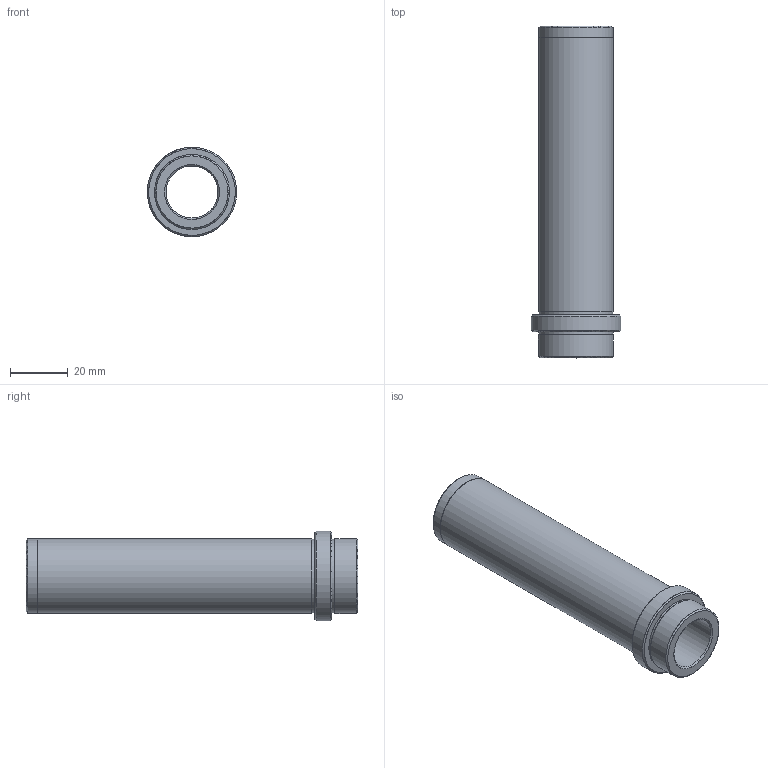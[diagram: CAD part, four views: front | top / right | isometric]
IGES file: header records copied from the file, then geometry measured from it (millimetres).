
Start section: Missler Software BP 521, 31674 Labege Cedex, France Tel   : +33 (0)5 61 00 03 00 Fax   : +33 (0)5 61 00 03 03 Email : sup.topsolid@topsolid.com
Global section: file name: D:\Cuma\24 03 2009\D21\D21_18X106.igs; native system: TopSolid v605250 Missler Software; preprocessor: IGES preprocessor v100000; date: 030101.000543; units: millimetre
Bounding box: 30.95 x 115 x 31 mm (x, y, z)
Surface area: 16959.9 mm2 (no closed solid volume)
Topology: 0 solids, 0 shells, 20 faces, 496 edges, 486 vertices
Faces by surface type: bspline 20
